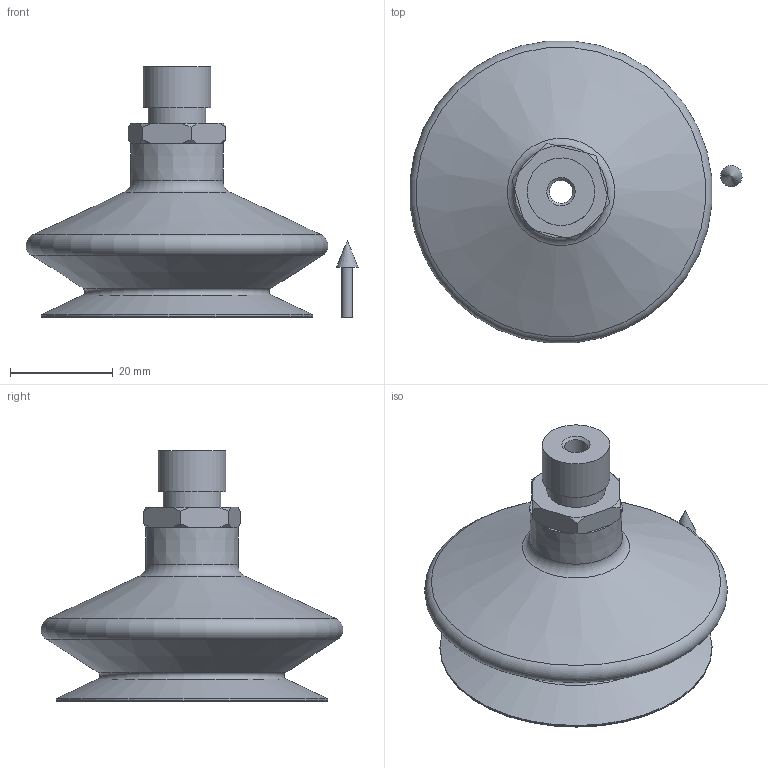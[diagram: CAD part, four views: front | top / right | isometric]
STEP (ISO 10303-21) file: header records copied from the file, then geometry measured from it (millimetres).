
FILE_DESCRIPTION(('STEP AP214'),'1');
FILE_NAME('KIT.08.31.D53.21.stp','2019-05-28T06:28:04',(' '),(' '),'Spatial InterOp 3D',' ',' ');
FILE_SCHEMA(('AUTOMOTIVE_DESIGN { 1 0 10303 214 1 1 1 1 }'));
Length unit declared in the file: millimetre
Products named in the file (3): KIT.08.31.D53.21; CA.08.09.021; CA.08.31.009
Assembly tree (2 placements, depth 2):
  KIT.08.31.D53.21
    CA.08.09.021
    CA.08.31.009
Bounding box: 64.65 x 58.8 x 48.8 mm (x, y, z)
Volume: 20260.1 mm3; surface area: 16637.7 mm2
Topology: 3 solids, 3 shells, 59 faces, 129 edges, 82 vertices
Faces by surface type: cone 24, plane 18, cylinder 10, torus 7
Full cylindrical faces by diameter (mm): 2.1 x1, 4.5 x1, 8 x1, 8.8 x1, 11.3 x1, 12 x1, 13.157 x1, 14.5 x1, 24.5 x1, 53 x1
Entity records: 2172 total; most frequent: CARTESIAN_POINT 501, DIRECTION 240, ORIENTED_EDGE 186, AXIS2_PLACEMENT_3D 111, EDGE_LOOP 98, EDGE_CURVE 93, FACE_OUTER_BOUND 76, VERTEX_POINT 76
